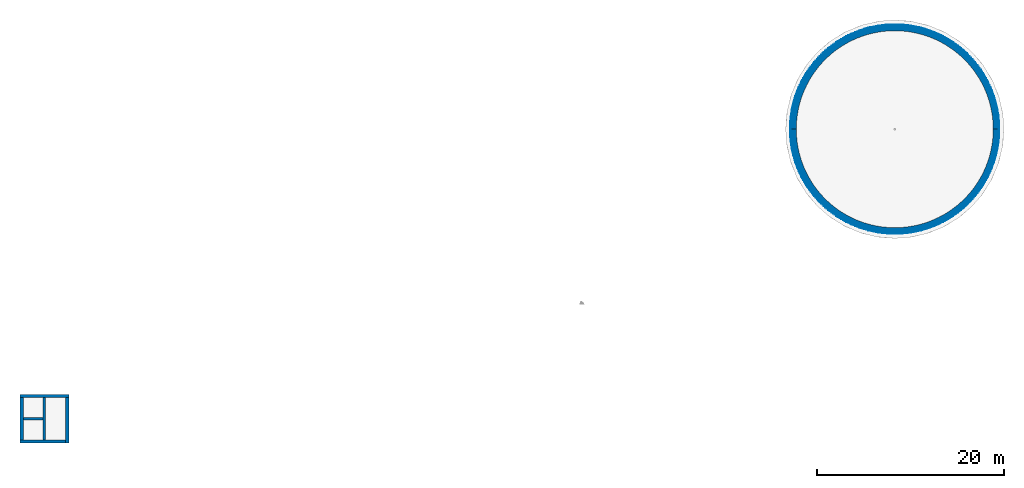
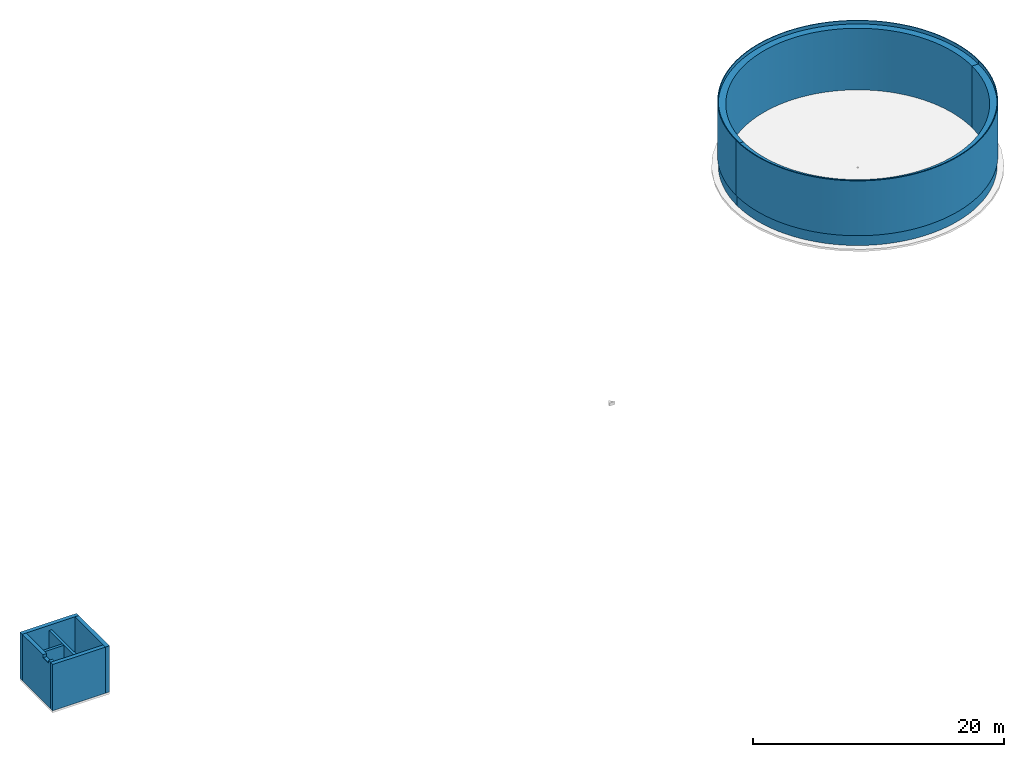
# One storey, part 3 of 5: 10 walls, 2 openings.
"""IFC2X3 building model written with IfcOpenShell, lengths in millimetres."""

from ifc_helpers import new_model, entity, si_unit, converted_unit, derived_unit, direction, frame, frame_2d, origin, place, context, subcontext, project, spatial, polyline, circle_curve, parameter, trimmed, segment, composite_curve, rectangle, outline, extrude, faceted_brep, material, layer, layer_set, layer_usage, type_object, element, save


model = new_model("IFC2X3")

# Units and contexts
model_context = context("Model", 3, precision=0.01, world=origin(), true_north=direction((6.123031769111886e-17, 1.0)))
body_context = subcontext(model_context, "Body", "Model", "MODEL_VIEW")
ifc_project = project(units=[si_unit("LENGTHUNIT", "METRE", prefix="MILLI"), si_unit("AREAUNIT", "SQUARE_METRE"), si_unit("VOLUMEUNIT", "CUBIC_METRE"), converted_unit("PLANEANGLEUNIT", "DEGREE", entity("IfcRatioMeasure", 0.017453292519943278), si_unit("PLANEANGLEUNIT", "RADIAN"), dimensions=[0, 0, 0, 0, 0, 0, 0]), si_unit("MASSUNIT", "GRAM", prefix="KILO"), derived_unit("MASSDENSITYUNIT", [(si_unit("MASSUNIT", "GRAM", prefix="KILO"), 1), (si_unit("LENGTHUNIT", "METRE"), -3)]), derived_unit("IONCONCENTRATIONUNIT", [(si_unit("MASSUNIT", "GRAM", prefix="KILO"), 1), (si_unit("LENGTHUNIT", "METRE"), -3)]), derived_unit("MOMENTOFINERTIAUNIT", [(si_unit("LENGTHUNIT", "METRE"), 4)]), si_unit("TIMEUNIT", "SECOND"), si_unit("FREQUENCYUNIT", "HERTZ"), si_unit("THERMODYNAMICTEMPERATUREUNIT", "DEGREE_CELSIUS"), derived_unit("THERMALTRANSMITTANCEUNIT", [(si_unit("MASSUNIT", "GRAM", prefix="KILO"), 1), (si_unit("THERMODYNAMICTEMPERATUREUNIT", "KELVIN"), -1), (si_unit("TIMEUNIT", "SECOND"), -3)]), derived_unit("THERMALCONDUCTANCEUNIT", [(si_unit("MASSUNIT", "GRAM", prefix="KILO"), 1), (si_unit("THERMODYNAMICTEMPERATUREUNIT", "KELVIN"), -1), (si_unit("TIMEUNIT", "SECOND"), -3), (si_unit("LENGTHUNIT", "METRE"), 1)]), derived_unit("VOLUMETRICFLOWRATEUNIT", [(si_unit("LENGTHUNIT", "METRE"), 3), (si_unit("TIMEUNIT", "SECOND"), -1)]), derived_unit("MASSFLOWRATEUNIT", [(si_unit("MASSUNIT", "GRAM", prefix="KILO"), 1), (si_unit("TIMEUNIT", "SECOND"), -1)]), derived_unit("ROTATIONALFREQUENCYUNIT", [(si_unit("TIMEUNIT", "SECOND"), -1)]), si_unit("ELECTRICCURRENTUNIT", "AMPERE"), si_unit("ELECTRICVOLTAGEUNIT", "VOLT"), si_unit("POWERUNIT", "WATT"), si_unit("FORCEUNIT", "NEWTON", prefix="KILO"), si_unit("ILLUMINANCEUNIT", "LUX"), si_unit("LUMINOUSFLUXUNIT", "LUMEN"), si_unit("LUMINOUSINTENSITYUNIT", "CANDELA"), derived_unit("USERDEFINED", [(si_unit("MASSUNIT", "GRAM", prefix="KILO"), -1), (si_unit("LENGTHUNIT", "METRE"), -2), (si_unit("TIMEUNIT", "SECOND"), 3), (si_unit("LUMINOUSFLUXUNIT", "LUMEN"), 1)]), derived_unit("USERDEFINED", [(si_unit("MASSUNIT", "GRAM", prefix="KILO"), 1), (si_unit("TIMEUNIT", "SECOND"), -3), (si_unit("LENGTHUNIT", "METRE"), 3), (si_unit("ELECTRICCURRENTUNIT", "AMPERE"), -2)]), derived_unit("SOUNDPOWERUNIT", [(si_unit("MASSUNIT", "GRAM", prefix="KILO"), 1), (si_unit("TIMEUNIT", "SECOND"), -3), (si_unit("LENGTHUNIT", "METRE"), 2)]), derived_unit("SOUNDPRESSUREUNIT", [(si_unit("MASSUNIT", "GRAM", prefix="KILO"), 1), (si_unit("LENGTHUNIT", "METRE"), -1), (si_unit("TIMEUNIT", "SECOND"), -2)]), derived_unit("LINEARVELOCITYUNIT", [(si_unit("LENGTHUNIT", "METRE"), 1), (si_unit("TIMEUNIT", "SECOND"), -1)]), si_unit("PRESSUREUNIT", "PASCAL"), derived_unit("USERDEFINED", [(si_unit("MASSUNIT", "GRAM", prefix="KILO"), 1), (si_unit("LENGTHUNIT", "METRE"), -2), (si_unit("TIMEUNIT", "SECOND"), -2)]), derived_unit("LINEARFORCEUNIT", [(si_unit("MASSUNIT", "GRAM", prefix="KILO"), 1), (si_unit("TIMEUNIT", "SECOND"), -2)]), derived_unit("PLANARFORCEUNIT", [(si_unit("MASSUNIT", "GRAM", prefix="KILO"), 1), (si_unit("LENGTHUNIT", "METRE"), -1), (si_unit("TIMEUNIT", "SECOND"), -2)]), derived_unit("SPECIFICHEATCAPACITYUNIT", [(si_unit("THERMODYNAMICTEMPERATUREUNIT", "KELVIN"), -1), (si_unit("LENGTHUNIT", "METRE"), 2), (si_unit("TIMEUNIT", "SECOND"), -2)]), derived_unit("HEATINGVALUEUNIT", [(si_unit("LENGTHUNIT", "METRE"), 2), (si_unit("TIMEUNIT", "SECOND"), -2)]), derived_unit("VAPORPERMEABILITYUNIT", [(si_unit("LENGTHUNIT", "METRE"), -1), (si_unit("TIMEUNIT", "SECOND"), 1)]), derived_unit("DYNAMICVISCOSITYUNIT", [(si_unit("MASSUNIT", "GRAM", prefix="KILO"), 1), (si_unit("TIMEUNIT", "SECOND"), -1), (si_unit("LENGTHUNIT", "METRE"), -1)]), derived_unit("THERMALEXPANSIONCOEFFICIENTUNIT", [(si_unit("THERMODYNAMICTEMPERATUREUNIT", "KELVIN"), -1)]), derived_unit("MODULUSOFELASTICITYUNIT", [(si_unit("MASSUNIT", "GRAM", prefix="KILO"), 1), (si_unit("LENGTHUNIT", "METRE"), -1), (si_unit("TIMEUNIT", "SECOND"), -2)]), derived_unit("ISOTHERMALMOISTURECAPACITYUNIT", [(si_unit("LENGTHUNIT", "METRE"), 3), (si_unit("MASSUNIT", "GRAM", prefix="KILO"), -1)]), derived_unit("MOISTUREDIFFUSIVITYUNIT", [(si_unit("TIMEUNIT", "SECOND"), -1), (si_unit("LENGTHUNIT", "METRE"), 2)])], contexts=[model_context])

# Site, building, storey
site_placement = place(None, origin())
site = spatial("IfcSite", under=ifc_project, at=site_placement, Name="IFCSITE", CompositionType="ELEMENT")
building_placement = place(site_placement, origin())
building = spatial("IfcBuilding", under=site, at=building_placement, CompositionType="ELEMENT")
storey_placement = place(building_placement, origin())
storey = spatial("IfcBuildingStorey", under=building, at=storey_placement, Name="Plan 01", CompositionType="ELEMENT", Elevation=0.0)

# Walls
ifc_material_1 = material(Name="Betong - Plasstøpt")
ifc_layer_1 = layer(ifc_material_1, 300.0)
ifc_layer_2 = layer(ifc_material_1, 120.0)
ifc_material_2 = material(Name="Isolasjon Hard")
ifc_layer_3 = layer(ifc_material_2, 100.0)
ifc_layer_4 = layer(ifc_material_1, 80.0)
ifc_layer_set_1 = layer_set([ifc_layer_1, ifc_layer_2, ifc_layer_3, ifc_layer_4], Name="Basic Wall:Standard Yttervegg 4 sjikt - 400mm")
ifc_layer_usage_1 = layer_usage(ifc_layer_set_1, "AXIS2", "NEGATIVE", 300.0)
wall_type_1 = type_object("IfcWallType", Name="Basic Wall:Standard Yttervegg 4 sjikt - 400mm", PredefinedType="STANDARD", material=ifc_layer_set_1)
wall_1_placement = place(storey_placement, frame((43997.06729403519, 18718.41154030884, 0.0)))
element("IfcWallStandardCase", 1, at=wall_1_placement, inside=storey, type_object=wall_type_1, material=ifc_layer_usage_1, Name="Basic Wall:Standard Yttervegg 4 sjikt - 400mm", ObjectType="Basic Wall:Standard Yttervegg 4 sjikt - 400mm", context=body_context, shape_type="SweptSolid", body=[
    extrude(outline(composite_curve([segment(trimmed(circle_curve(frame_2d((-10820.0, 0.0), x_axis=(1.0, 0.0)), 10520.000000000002), [parameter(0.0)], [parameter(180.0)], True, "PARAMETER"), False, "CONTINUOUS"), segment(polyline([(-300.0, 0.0), (300.0, 0.0)]), True, "CONTINUOUS"), segment(trimmed(circle_curve(frame_2d((-10820.0, 0.0), x_axis=(1.0, 0.0)), 11120.0), [parameter(0.0)], [parameter(180.0)], True, "PARAMETER"), True, "CONTINUOUS"), segment(polyline([(-21940.0, 0.0), (-21340.0, 0.0)]), True, "CONTINUOUS")], self_intersect=False)), origin(), (0.0, 0.0, 1.0), 5999.999999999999),
])
wall_2_placement = place(storey_placement, frame((22357.067294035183, 18718.411540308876, 0.0)))
element("IfcWallStandardCase", 2, at=wall_2_placement, inside=storey, type_object=wall_type_1, material=ifc_layer_usage_1, Name="Basic Wall:Standard Yttervegg 4 sjikt - 400mm", ObjectType="Basic Wall:Standard Yttervegg 4 sjikt - 400mm", context=body_context, shape_type="SweptSolid", body=[
    extrude(outline(composite_curve([segment(trimmed(circle_curve(frame_2d((10820.0, 0.0), x_axis=(1.0, 0.0)), 10520.000000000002), [parameter(180.0)], [parameter(0.0)], True, "PARAMETER"), False, "CONTINUOUS"), segment(polyline([(300.0, 0.0), (-300.0, 0.0)]), True, "CONTINUOUS"), segment(trimmed(circle_curve(frame_2d((10820.0, 0.0), x_axis=(1.0, 0.0)), 11120.0), [parameter(180.0)], [parameter(0.0)], True, "PARAMETER"), True, "CONTINUOUS"), segment(polyline([(21940.0, 0.0), (21340.0, 0.0)]), True, "CONTINUOUS")], self_intersect=False)), origin(), (0.0, 0.0, 1.0), 5999.999999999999),
])
ifc_material_3 = material(Name="Utlekting")
ifc_layer_5 = layer(ifc_material_3, 48.0)
ifc_material_4 = material(Name="Dobbelfals Stående Kledning - Hvit")
ifc_layer_6 = layer(ifc_material_4, 19.0)
ifc_layer_set_2 = layer_set([ifc_layer_5, ifc_layer_6], Name="Basic Wall:Standard Yttervegg påforing og panel")
ifc_layer_usage_2 = layer_usage(ifc_layer_set_2, "AXIS2", "NEGATIVE", 33.5)
wall_type_2 = type_object("IfcWallType", Name="Basic Wall:Standard Yttervegg påforing og panel", PredefinedType="STANDARD", material=ifc_layer_set_2)
wall_3_placement = place(storey_placement, frame((44330.56729403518, 18718.411540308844, 1000.0)))
element("IfcWallStandardCase", 3, at=wall_3_placement, inside=storey, type_object=wall_type_2, material=ifc_layer_usage_2, Name="Basic Wall:Standard Yttervegg påforing og panel", ObjectType="Basic Wall:Standard Yttervegg påforing og panel", context=body_context, shape_type="SweptSolid", body=[
    extrude(outline(composite_curve([segment(trimmed(circle_curve(frame_2d((-11153.499999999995, 0.0), x_axis=(1.0, 0.0)), 11119.999999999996), [parameter(0.0)], [parameter(180.0)], True, "PARAMETER"), False, "CONTINUOUS"), segment(polyline([(-33.500000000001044, 0.0), (33.500000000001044, 0.0)]), True, "CONTINUOUS"), segment(trimmed(circle_curve(frame_2d((-11153.499999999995, 0.0), x_axis=(1.0, 0.0)), 11187.0), [parameter(0.0)], [parameter(180.0)], True, "PARAMETER"), True, "CONTINUOUS"), segment(polyline([(-22340.499999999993, 0.0), (-22273.499999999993, 0.0)]), True, "CONTINUOUS")], self_intersect=False)), origin(), (0.0, 0.0, 1.0), 5339.999999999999),
])
wall_4_placement = place(storey_placement, frame((22023.567294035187, 18718.41154030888, 1000.0)))
element("IfcWallStandardCase", 4, at=wall_4_placement, inside=storey, type_object=wall_type_2, material=ifc_layer_usage_2, Name="Basic Wall:Standard Yttervegg påforing og panel", ObjectType="Basic Wall:Standard Yttervegg påforing og panel", context=body_context, shape_type="SweptSolid", body=[
    extrude(outline(composite_curve([segment(trimmed(circle_curve(frame_2d((11153.499999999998, 0.0), x_axis=(1.0, 0.0)), 11119.999999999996), [parameter(180.0)], [parameter(0.0)], True, "PARAMETER"), False, "CONTINUOUS"), segment(polyline([(33.500000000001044, 0.0), (-33.500000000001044, 0.0)]), True, "CONTINUOUS"), segment(trimmed(circle_curve(frame_2d((11153.499999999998, 0.0), x_axis=(1.0, 0.0)), 11187.0), [parameter(180.0)], [parameter(0.0)], True, "PARAMETER"), True, "CONTINUOUS"), segment(polyline([(22340.499999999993, 0.0), (22273.499999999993, 0.0)]), True, "CONTINUOUS")], self_intersect=False)), origin(), (0.0, 0.0, 1.0), 5339.999999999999),
])
ifc_material_5 = material(Name="Vegg - Puss")
ifc_layer_7 = layer(ifc_material_5, 10.0)
ifc_layer_8 = layer(ifc_material_2, 100.0)
ifc_layer_9 = layer(ifc_material_1, 250.00000000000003)
ifc_layer_set_3 = layer_set([ifc_layer_7, ifc_layer_8, ifc_layer_9], Name="Basic Wall:Yttervegg - 250mm + 100mm Betong med puss 2")
ifc_layer_usage_3 = layer_usage(ifc_layer_set_3, "AXIS2", "NEGATIVE", 180.00000000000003)
wall_type_3 = type_object("IfcWallType", Name="Basic Wall:Yttervegg - 250mm + 100mm Betong med puss 2", PredefinedType="STANDARD", material=ifc_layer_set_3)
wall_5_placement = place(storey_placement, frame((-60337.51337892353, -9798.925170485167, 0.0)))
element("IfcWallStandardCase", 5, at=wall_5_placement, inside=storey, type_object=wall_type_3, material=ifc_layer_usage_3, Name="Basic Wall:Yttervegg - 250mm + 100mm Betong med puss 2", ObjectType="Basic Wall:Yttervegg - 250mm + 100mm Betong med puss 2", context=body_context, shape_type="SweptSolid", body=[
    extrude(rectangle(XDim=5220.0, YDim=360.00000000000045, at=frame_2d((2610.0, 3.410605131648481e-13), x_axis=(-1.0, 0.0))), origin(), (0.0, 0.0, 1.0), 4500.0),
])
wall_6_placement = place(storey_placement, frame((-55297.51337892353, -9978.925170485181, 0.0), z_axis=(0.0, 0.0, 1.0), x_axis=(0.0, -1.0, 0.0)))
element("IfcWallStandardCase", 6, at=wall_6_placement, inside=storey, type_object=wall_type_3, material=ifc_layer_usage_3, Name="Basic Wall:Yttervegg - 250mm + 100mm Betong med puss 2", ObjectType="Basic Wall:Yttervegg - 250mm + 100mm Betong med puss 2", context=body_context, shape_type="SweptSolid", body=[
    extrude(rectangle(XDim=4860.000000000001, YDim=360.0000000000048, at=frame_2d((2430.0000000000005, -1.1368683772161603e-13), x_axis=(-1.0, 0.0))), origin(), (0.0, 0.0, 1.0), 4500.0),
])
wall_7_placement = place(storey_placement, frame((-55477.51337892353, -14658.925170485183, 0.0), z_axis=(0.0, 0.0, 1.0), x_axis=(-1.0, 0.0, 0.0)))
element("IfcWallStandardCase", 7, at=wall_7_placement, inside=storey, type_object=wall_type_3, material=ifc_layer_usage_3, Name="Basic Wall:Yttervegg - 250mm + 100mm Betong med puss 2", ObjectType="Basic Wall:Yttervegg - 250mm + 100mm Betong med puss 2", context=body_context, shape_type="SweptSolid", body=[
    extrude(rectangle(XDim=4859.999999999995, YDim=360.00000000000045, at=frame_2d((2429.9999999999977, -2.1316282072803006e-13), x_axis=(-1.0, 0.0))), origin(), (0.0, 0.0, 1.0), 4500.0),
])

# Wall, openings
wall_8_placement = place(storey_placement, frame((-60157.513378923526, -14478.925170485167, 0.0), z_axis=(0.0, 0.0, 1.0), x_axis=(0.0, 1.0, 0.0)))
wall_8 = element("IfcWallStandardCase", 8, at=wall_8_placement, inside=storey, type_object=wall_type_3, material=ifc_layer_usage_3, Name="Basic Wall:Yttervegg - 250mm + 100mm Betong med puss 2", ObjectType="Basic Wall:Yttervegg - 250mm + 100mm Betong med puss 2", context=body_context, shape_type="SweptSolid", body=[
    extrude(rectangle(XDim=4500.000000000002, YDim=360.0000000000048, at=frame_2d((2250.000000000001, 0.0), x_axis=(-1.0, 0.0))), origin(), (0.0, 0.0, 1.0), 4500.0),
])
opening_1_placement = place(wall_8_placement, origin())
element("IfcOpeningElement", 9, at=opening_1_placement, cuts=wall_8, Name="Basic Wall:Yttervegg - 250mm + 100mm Betong med puss 2", ObjectType="Opening", context=body_context, shape_type="SweptSolid", body=[
    extrude(rectangle(XDim=2110.0000000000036, YDim=909.9999999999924, at=frame_2d((-3.410605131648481e-13, 0.0), x_axis=(1.0, 0.0))), frame((764.0, -1713.0, 5255.0), z_axis=(0.0, 1.0, 0.0), x_axis=(0.0, 0.0, 1.0)), (0.0, 0.0, 1.0), 3048.0),
])
opening_2_placement = place(wall_8_placement, frame((236.0, 131.0, 4164.076953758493)))
element("IfcOpeningElement", 10, at=opening_2_placement, cuts=wall_8, Name="Basic Wall:Yttervegg - 250mm + 100mm Betong med puss 2", ObjectType="Opening", context=body_context, shape_type="Brep", body=[
    faceted_brep([(0.0, 0.0, 2145.92304624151), (0.0, -78.0, 2145.92304624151), (0.0, -78.0, 2222.684505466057), (0.0, 0.0, 2201.784468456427), (1056.0, 0.0, 2145.92304624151), (1056.0, 0.0, 2201.784468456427), (1056.0, -78.0, 2222.684505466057), (1056.0, -78.0, 2145.92304624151)], [[[0, 1, 2, 3]], [[4, 5, 6, 7]], [[0, 3, 5, 4]], [[3, 2, 6, 5]], [[2, 1, 7, 6]], [[1, 0, 4, 7]]]),
    faceted_brep([(0.0, 0.0, 35.92304624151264), (0.0, 0.0, 0.0), (0.0, -78.0, 20.900037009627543), (0.0, -78.0, 35.92304624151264), (1056.0, 0.0, 35.92304624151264), (1056.0, -78.0, 35.92304624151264), (1056.0, -78.0, 20.900037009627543), (1056.0, 0.0, 0.0)], [[[0, 1, 2, 3]], [[4, 5, 6, 7]], [[1, 0, 4, 7]], [[0, 3, 5, 4]], [[3, 2, 6, 5]], [[2, 1, 7, 6]]]),
])

# Walls
ifc_material_6 = material(Name="Vegg - Plasstøpt betong")
ifc_layer_10 = layer(ifc_material_6, 250.00000000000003)
ifc_layer_set_4 = layer_set([ifc_layer_10], Name="Basic Wall:Innervegg - 250mm")
ifc_layer_usage_4 = layer_usage(ifc_layer_set_4, "AXIS2", "NEGATIVE", 125.00000000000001)
wall_type_4 = type_object("IfcWallType", Name="Basic Wall:Innervegg - 250mm", PredefinedType="STANDARD", material=ifc_layer_set_4)
wall_9_placement = place(storey_placement, frame((-57727.513378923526, -9978.925170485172, 0.0), z_axis=(0.0, 0.0, 1.0), x_axis=(0.0, -1.0, 0.0)))
element("IfcWallStandardCase", 11, at=wall_9_placement, inside=storey, type_object=wall_type_4, material=ifc_layer_usage_4, Name="Basic Wall:Innervegg - 250mm", ObjectType="Basic Wall:Innervegg - 250mm", context=body_context, shape_type="SweptSolid", body=[
    extrude(rectangle(XDim=4500.000000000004, YDim=249.99999999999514, at=frame_2d((2250.000000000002, 0.0), x_axis=(-1.0, 0.0))), origin(), (0.0, 0.0, 1.0), 3999.9999999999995),
])
wall_10_placement = place(storey_placement, frame((-59977.51337892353, -12228.925170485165, 0.0)))
element("IfcWallStandardCase", 12, at=wall_10_placement, inside=storey, type_object=wall_type_4, material=ifc_layer_usage_4, Name="Basic Wall:Innervegg - 250mm", ObjectType="Basic Wall:Innervegg - 250mm", context=body_context, shape_type="SweptSolid", body=[
    extrude(rectangle(XDim=2125.0000000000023, YDim=249.9999999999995, at=frame_2d((1062.5000000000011, -1.7763568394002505e-13), x_axis=(-1.0, 0.0))), origin(), (0.0, 0.0, 1.0), 3999.9999999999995),
])

save(model, "model.ifc")
